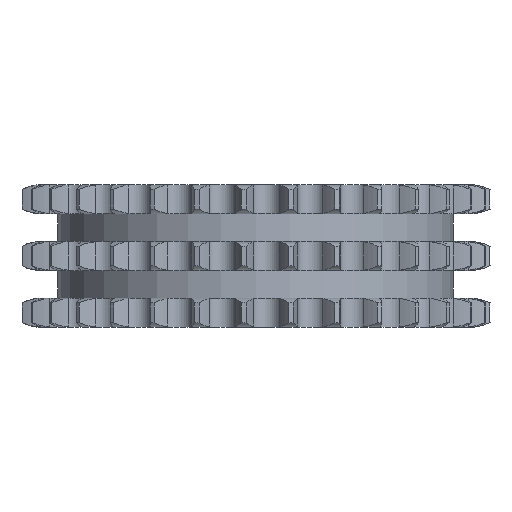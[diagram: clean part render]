
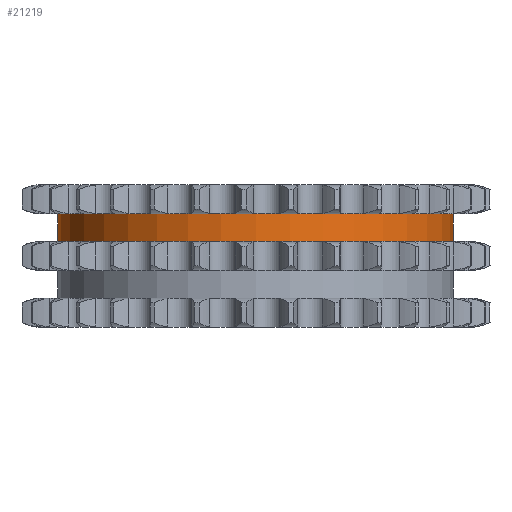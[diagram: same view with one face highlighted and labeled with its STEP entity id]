
A CAD part, left-side view. The second image highlights one B-rep face of the part: STEP entity #21219.
In plain terms, the highlighted cylindrical face has radius 110.533 mm (diameter 221.067 mm), a partial arc.
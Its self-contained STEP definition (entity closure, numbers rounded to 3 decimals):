
#4191=DIRECTION('',(0.,0.,-1.));
#4192=VECTOR('',#4191,15.5);
#4193=CARTESIAN_POINT('',(0.,110.533,23.6));
#4194=LINE('',#4193,#4192);
#4198=CARTESIAN_POINT('',(0.,0.,23.6));
#4199=DIRECTION('',(0.,0.,1.));
#4200=DIRECTION('',(0.,1.,0.));
#4201=AXIS2_PLACEMENT_3D('',#4198,#4199,#4200);
#4206=DIRECTION('',(0.,0.,-1.));
#4207=VECTOR('',#4206,15.5);
#4208=CARTESIAN_POINT('',(0.,-110.533,23.6));
#4209=LINE('',#4208,#4207);
#4213=CARTESIAN_POINT('',(0.,0.,8.1));
#4214=DIRECTION('',(0.,0.,1.));
#4215=DIRECTION('',(0.,1.,0.));
#4216=AXIS2_PLACEMENT_3D('',#4213,#4214,#4215);
#16780=CARTESIAN_POINT('',(0.,110.533,23.6));
#16781=CARTESIAN_POINT('',(0.,110.533,8.1));
#16782=VERTEX_POINT('',#16780);
#16783=VERTEX_POINT('',#16781);
#16784=CARTESIAN_POINT('',(0.,-110.533,23.6));
#16785=CARTESIAN_POINT('',(0.,-110.533,8.1));
#16786=VERTEX_POINT('',#16784);
#16787=VERTEX_POINT('',#16785);
#21207=CARTESIAN_POINT('',(0.,0.,25.96));
#21208=DIRECTION('',(0.,0.,-1.));
#21209=DIRECTION('',(0.,-1.,0.));
#21210=AXIS2_PLACEMENT_3D('',#21207,#21208,#21209);
#21211=CYLINDRICAL_SURFACE('',#21210,110.533);
#21212=ORIENTED_EDGE('',*,*,#21197,.F.);
#21213=ORIENTED_EDGE('',*,*,#21187,.T.);
#21214=ORIENTED_EDGE('',*,*,#21201,.T.);
#21216=ORIENTED_EDGE('',*,*,#21215,.F.);
#21217=EDGE_LOOP('',(#21212,#21213,#21214,#21216));
#21218=FACE_OUTER_BOUND('',#21217,.F.);
#21219=ADVANCED_FACE('',(#21218),#21211,.T.);
#4202=CIRCLE('',#4201,110.533);
#4217=CIRCLE('',#4216,110.533);
#21187=EDGE_CURVE('',#16782,#16786,#4202,.T.);
#21197=EDGE_CURVE('',#16782,#16783,#4194,.T.);
#21201=EDGE_CURVE('',#16786,#16787,#4209,.T.);
#21215=EDGE_CURVE('',#16783,#16787,#4217,.T.);
